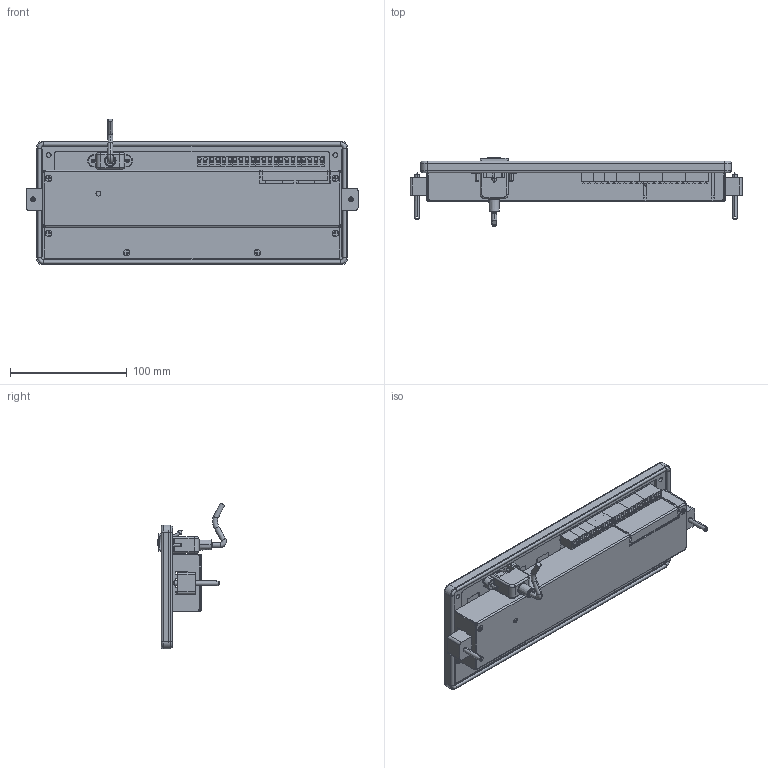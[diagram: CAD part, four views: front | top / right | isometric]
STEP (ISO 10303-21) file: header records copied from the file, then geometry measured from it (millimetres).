
FILE_DESCRIPTION((''),'2;1');
FILE_NAME('EKM32_104_ASSY','2019-10-02T17:19:37',('paolo.garatti'),('GEFRAN S.p.A via Carducci,24 21040 Gerenzano (VA)'),'CREO PARAMETRIC BY PTC INC, 2018300','CREO PARAMETRIC BY PTC INC, 2018300','');
FILE_SCHEMA(('AUTOMOTIVE_DESIGN { 1 0 10303 214 1 1 1 1 }'));
Products named in the file (18): CORNICE_TF32-104; CONN_4P_LSF_508_180_WEID; HTSB_M3-6-25-2_RICHCO; KFH_M3X15; KFH_M3X8_PEM; LEXAN_TASTIERA_TF32_104; TAPPO_USB; ROSETTA_RE_UNI1751_D_3; PCB_GT_TAST; RJ45_8VIE_MOLEX; GT_TAST; DISTANZIALE_ESAGONALE__12; 48004_VITE_DIN7985; CARTER_COPERTURA_TF32_104_S; 8S8L70; CONNETTORE_USB_VOLANTE; GANCIO_FERRO; EKM32_104_ASSY
Assembly tree (36 placements, depth 3):
  EKM32_104_ASSY
    CORNICE_TF32-104
    CONN_4P_LSF_508_180_WEID  x6
    HTSB_M3-6-25-2_RICHCO  x2
    KFH_M3X15  x2
    KFH_M3X8_PEM  x2
    LEXAN_TASTIERA_TF32_104
    TAPPO_USB
    ROSETTA_RE_UNI1751_D_3  x4
    GT_TAST
      PCB_GT_TAST
      RJ45_8VIE_MOLEX
    DISTANZIALE_ESAGONALE__12  x2
    48004_VITE_DIN7985  x2
    CARTER_COPERTURA_TF32_104_S
    8S8L70  x6
    CONNETTORE_USB_VOLANTE
    GANCIO_FERRO  x2
Bounding box: 283.9 x 58.76 x 124.84 mm (x, y, z)
Volume: 125757.8 mm3; surface area: 194722.3 mm2
Topology: 36 solids, 36 shells, 3166 faces, 8061 edges, 5231 vertices
Faces by surface type: plane 1731, cylinder 1135, bspline 116, cone 96, torus 76, sphere 12
Entity records: 101076 total; most frequent: CARTESIAN_POINT 14597, DIRECTION 13408, ORIENTED_EDGE 12800, EDGE_CURVE 6400, PRESENTATION_STYLE_ASSIGNMENT 5807, STYLED_ITEM 5652, CURVE_STYLE 5584, AXIS2_PLACEMENT_3D 4605
